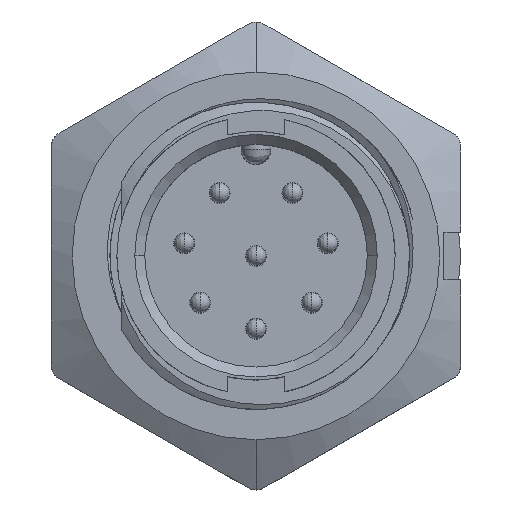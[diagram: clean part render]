
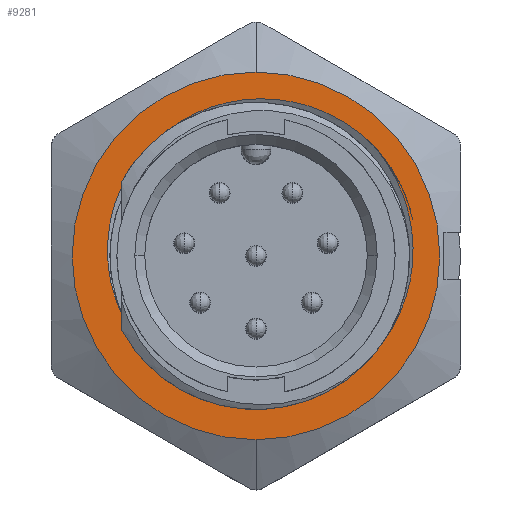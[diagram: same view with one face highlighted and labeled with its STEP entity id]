
A CAD part, top view. The second image highlights one B-rep face of the part: STEP entity #9281.
In plain terms, the highlighted planar face has unit normal (0, 0, 1).
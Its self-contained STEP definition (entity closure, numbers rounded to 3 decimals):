
#212 = EDGE_LOOP ( 'NONE', ( #14176, #5480, #12526, #14534 ) ) ;
#242 = B_SPLINE_CURVE_WITH_KNOTS ( 'NONE', 3,
 ( #13492, #2214, #12303, #13571, #5499, #11324 ),
 .UNSPECIFIED., .F., .F.,
 ( 4, 2, 4 ),
 ( 0., 0.5, 1. ),
 .UNSPECIFIED. ) ;
#296 = CARTESIAN_POINT ( 'NONE',  ( 7.06, 3.95, -6.1 ) ) ;
#393 = DIRECTION ( 'NONE',  ( 1., 0., 0. ) ) ;
#598 = EDGE_CURVE ( 'NONE', #2745, #13145, #12875, .T. ) ;
#625 = VERTEX_POINT ( 'NONE', #6682 ) ;
#899 = CARTESIAN_POINT ( 'NONE',  ( -2.967, -6.725, -6.1 ) ) ;
#966 = CARTESIAN_POINT ( 'NONE',  ( -6.497, -3.464, -6.1 ) ) ;
#1432 = ORIENTED_EDGE ( 'NONE', *, *, #10734, .F. ) ;
#1544 = CARTESIAN_POINT ( 'NONE',  ( -5.876, 4.994, -6.1 ) ) ;
#2002 = CARTESIAN_POINT ( 'NONE',  ( -6.279, -3.846, -6.1 ) ) ;
#2141 = CARTESIAN_POINT ( 'NONE',  ( 5.992, 5.451, -6.1 ) ) ;
#2214 = CARTESIAN_POINT ( 'NONE',  ( 5.468, 5.983, -6.1 ) ) ;
#2266 = VERTEX_POINT ( 'NONE', #7416 ) ;
#2575 = CARTESIAN_POINT ( 'NONE',  ( -6.682, -3.063, -6.1 ) ) ;
#2596 = CARTESIAN_POINT ( 'NONE',  ( 2.813, -7.078, -6.1 ) ) ;
#2651 = CARTESIAN_POINT ( 'NONE',  ( -3.918, 6.752, -6.1 ) ) ;
#2745 = VERTEX_POINT ( 'NONE', #10664 ) ;
#2871 = CARTESIAN_POINT ( 'NONE',  ( -7.119, 2.711, -6.1 ) ) ;
#3119 = CARTESIAN_POINT ( 'NONE',  ( -4.494, -5.834, -6.1 ) ) ;
#3186 = CARTESIAN_POINT ( 'NONE',  ( -3.75, -6.322, -6.1 ) ) ;
#3222 = EDGE_CURVE ( 'NONE', #14646, #12946, #5057, .T. ) ;
#3716 = CARTESIAN_POINT ( 'NONE',  ( 5.732, -5.207, -6.1 ) ) ;
#3808 = FACE_OUTER_BOUND ( 'NONE', #10424, .T. ) ;
#3916 = CARTESIAN_POINT ( 'NONE',  ( -7.483, 1.038, -6.1 ) ) ;
#4178 = CIRCLE ( 'NONE', #12544, 9.25 ) ;
#4238 = CARTESIAN_POINT ( 'NONE',  ( -3.169, -6.635, -6.1 ) ) ;
#4249 = ORIENTED_EDGE ( 'NONE', *, *, #598, .F. ) ;
#4688 = CARTESIAN_POINT ( 'NONE',  ( 7.921, -0.448, -6.1 ) ) ;
#4768 = CARTESIAN_POINT ( 'NONE',  ( 7.879, 1.35, -6.1 ) ) ;
#4839 = CARTESIAN_POINT ( 'NONE',  ( 3.618, -6.74, -6.1 ) ) ;
#5057 = B_SPLINE_CURVE_WITH_KNOTS ( 'NONE', 3,
 ( #13949, #5813, #10592, #10375, #6872, #2596, #4839, #11716, #3716, #8295, #13730, #10526, #4688, #4768, #9259, #296, #12623, #8151 ),
 .UNSPECIFIED., .F., .F.,
 ( 4, 2, 2, 2, 2, 2, 2, 2, 4 ),
 ( 0., 0.125, 0.25, 0.375, 0.5, 0.625, 0.75, 0.875, 1. ),
 .UNSPECIFIED. ) ;
#5480 = ORIENTED_EDGE ( 'NONE', *, *, #12324, .F. ) ;
#5499 = CARTESIAN_POINT ( 'NONE',  ( 5.899, 5.559, -6.1 ) ) ;
#5584 = CARTESIAN_POINT ( 'NONE',  ( -4.84, -5.549, -6.1 ) ) ;
#5813 = CARTESIAN_POINT ( 'NONE',  ( -2.216, -7.089, -6.1 ) ) ;
#6055 = DIRECTION ( 'NONE',  ( 0., 0., 1. ) ) ;
#6160 = DIRECTION ( 'NONE',  ( 0., 0., -1. ) ) ;
#6642 = CARTESIAN_POINT ( 'NONE',  ( -3.938, -6.207, -6.1 ) ) ;
#6682 = CARTESIAN_POINT ( 'NONE',  ( -6.682, -3.063, -6.1 ) ) ;
#6872 = CARTESIAN_POINT ( 'NONE',  ( 1.145, -7.467, -6.1 ) ) ;
#7123 = PLANE ( 'NONE',  #13010 ) ;
#7226 = CARTESIAN_POINT ( 'NONE',  ( 1.237, 7.899, -6.1 ) ) ;
#7416 = CARTESIAN_POINT ( 'NONE',  ( 5.365, 6.07, -6.1 ) ) ;
#7447 = CARTESIAN_POINT ( 'NONE',  ( -7.521, 0.176, -6.1 ) ) ;
#7555 = B_SPLINE_CURVE_WITH_KNOTS ( 'NONE', 3,
 ( #8282, #14153, #10729, #9388, #7226, #13936, #10513, #12901, #2651, #11771, #1544, #12829, #2871, #3916, #7447, #14230, #13045, #2575 ),
 .UNSPECIFIED., .F., .F.,
 ( 4, 2, 2, 2, 2, 2, 2, 2, 4 ),
 ( 0., 0.125, 0.25, 0.375, 0.5, 0.625, 0.75, 0.875, 1. ),
 .UNSPECIFIED. ) ;
#7693 = CARTESIAN_POINT ( 'NONE',  ( -5.759, -4.569, -6.1 ) ) ;
#7851 = CARTESIAN_POINT ( 'NONE',  ( -5.963, -4.299, -6.1 ) ) ;
#8151 = CARTESIAN_POINT ( 'NONE',  ( 5.992, 5.451, -6.1 ) ) ;
#8244 = CARTESIAN_POINT ( 'NONE',  ( 0., 0., -6.1 ) ) ;
#8282 = CARTESIAN_POINT ( 'NONE',  ( 5.365, 6.07, -6.1 ) ) ;
#8295 = CARTESIAN_POINT ( 'NONE',  ( 6.808, -3.822, -6.1 ) ) ;
#8595 = EDGE_CURVE ( 'NONE', #14646, #625, #12688, .T. ) ;
#8776 = DIRECTION ( 'NONE',  ( -1., 0., 0. ) ) ;
#9259 = CARTESIAN_POINT ( 'NONE',  ( 7.706, 2.251, -6.1 ) ) ;
#9281 = ADVANCED_FACE ( 'NONE', ( #9646, #3808 ), #7123, .T. ) ;
#9388 = CARTESIAN_POINT ( 'NONE',  ( 2.14, 7.737, -6.1 ) ) ;
#9646 = FACE_BOUND ( 'NONE', #212, .T. ) ;
#10375 = CARTESIAN_POINT ( 'NONE',  ( 0.283, -7.518, -6.1 ) ) ;
#10424 = EDGE_LOOP ( 'NONE', ( #4249, #1432 ) ) ;
#10513 = CARTESIAN_POINT ( 'NONE',  ( -1.455, 7.766, -6.1 ) ) ;
#10526 = CARTESIAN_POINT ( 'NONE',  ( 7.786, -1.344, -6.1 ) ) ;
#10592 = CARTESIAN_POINT ( 'NONE',  ( -1.397, -7.328, -6.1 ) ) ;
#10664 = CARTESIAN_POINT ( 'NONE',  ( 0., -9.25, -6.1 ) ) ;
#10729 = CARTESIAN_POINT ( 'NONE',  ( 3.849, 7.115, -6.1 ) ) ;
#10734 = EDGE_CURVE ( 'NONE', #13145, #2745, #4178, .T. ) ;
#10972 = CARTESIAN_POINT ( 'NONE',  ( -5.32, -5.077, -6.1 ) ) ;
#11035 = CARTESIAN_POINT ( 'NONE',  ( -3.465, -6.489, -6.1 ) ) ;
#11260 = CARTESIAN_POINT ( 'NONE',  ( -5.548, -4.83, -6.1 ) ) ;
#11324 = CARTESIAN_POINT ( 'NONE',  ( 5.992, 5.451, -6.1 ) ) ;
#11460 = CARTESIAN_POINT ( 'NONE',  ( 0., 9.25, -6.1 ) ) ;
#11716 = CARTESIAN_POINT ( 'NONE',  ( 5.077, -5.803, -6.1 ) ) ;
#11771 = CARTESIAN_POINT ( 'NONE',  ( -5.289, 5.656, -6.1 ) ) ;
#12235 = CARTESIAN_POINT ( 'NONE',  ( -5.895, -4.391, -6.1 ) ) ;
#12303 = CARTESIAN_POINT ( 'NONE',  ( 5.576, 5.885, -6.1 ) ) ;
#12324 = EDGE_CURVE ( 'NONE', #2266, #625, #7555, .T. ) ;
#12355 = DIRECTION ( 'NONE',  ( 0., 0., -1. ) ) ;
#12396 = CARTESIAN_POINT ( 'NONE',  ( -4.029, -6.148, -6.1 ) ) ;
#12526 = ORIENTED_EDGE ( 'NONE', *, *, #14081, .T. ) ;
#12544 = AXIS2_PLACEMENT_3D ( 'NONE', #13038, #6160, #13113 ) ;
#12623 = CARTESIAN_POINT ( 'NONE',  ( 6.588, 4.749, -6.1 ) ) ;
#12688 = B_SPLINE_CURVE_WITH_KNOTS ( 'NONE', 3,
 ( #13357, #4238, #11035, #3186, #6642, #12396, #3119, #5584, #10972, #11260, #7693, #12235, #7851, #2002, #966, #14693 ),
 .UNSPECIFIED., .F., .F.,
 ( 4, 1, 2, 2, 2, 1, 2, 2, 4 ),
 ( 0., 0.125, 0.188, 0.25, 0.5, 0.625, 0.688, 0.75, 1. ),
 .UNSPECIFIED. ) ;
#12829 = CARTESIAN_POINT ( 'NONE',  ( -6.791, 3.521, -6.1 ) ) ;
#12875 = CIRCLE ( 'NONE', #14759, 9.25 ) ;
#12901 = CARTESIAN_POINT ( 'NONE',  ( -3.134, 7.185, -6.1 ) ) ;
#12946 = VERTEX_POINT ( 'NONE', #2141 ) ;
#13010 = AXIS2_PLACEMENT_3D ( 'NONE', #8244, #6055, #393 ) ;
#13038 = CARTESIAN_POINT ( 'NONE',  ( 0., 0., -6.1 ) ) ;
#13045 = CARTESIAN_POINT ( 'NONE',  ( -7.058, -2.317, -6.1 ) ) ;
#13113 = DIRECTION ( 'NONE',  ( -1., 0., 0. ) ) ;
#13145 = VERTEX_POINT ( 'NONE', #11460 ) ;
#13357 = CARTESIAN_POINT ( 'NONE',  ( -2.967, -6.725, -6.1 ) ) ;
#13492 = CARTESIAN_POINT ( 'NONE',  ( 5.365, 6.07, -6.1 ) ) ;
#13571 = CARTESIAN_POINT ( 'NONE',  ( 5.797, 5.667, -6.1 ) ) ;
#13730 = CARTESIAN_POINT ( 'NONE',  ( 7.228, -3.031, -6.1 ) ) ;
#13936 = CARTESIAN_POINT ( 'NONE',  ( -0.561, 7.913, -6.1 ) ) ;
#13949 = CARTESIAN_POINT ( 'NONE',  ( -2.967, -6.725, -6.1 ) ) ;
#14081 = EDGE_CURVE ( 'NONE', #2266, #12946, #242, .T. ) ;
#14153 = CARTESIAN_POINT ( 'NONE',  ( 4.655, 6.655, -6.1 ) ) ;
#14176 = ORIENTED_EDGE ( 'NONE', *, *, #8595, .T. ) ;
#14230 = CARTESIAN_POINT ( 'NONE',  ( -7.308, -1.502, -6.1 ) ) ;
#14534 = ORIENTED_EDGE ( 'NONE', *, *, #3222, .F. ) ;
#14582 = CARTESIAN_POINT ( 'NONE',  ( 0., 0., -6.1 ) ) ;
#14646 = VERTEX_POINT ( 'NONE', #899 ) ;
#14693 = CARTESIAN_POINT ( 'NONE',  ( -6.682, -3.063, -6.1 ) ) ;
#14759 = AXIS2_PLACEMENT_3D ( 'NONE', #14582, #12355, #8776 ) ;
